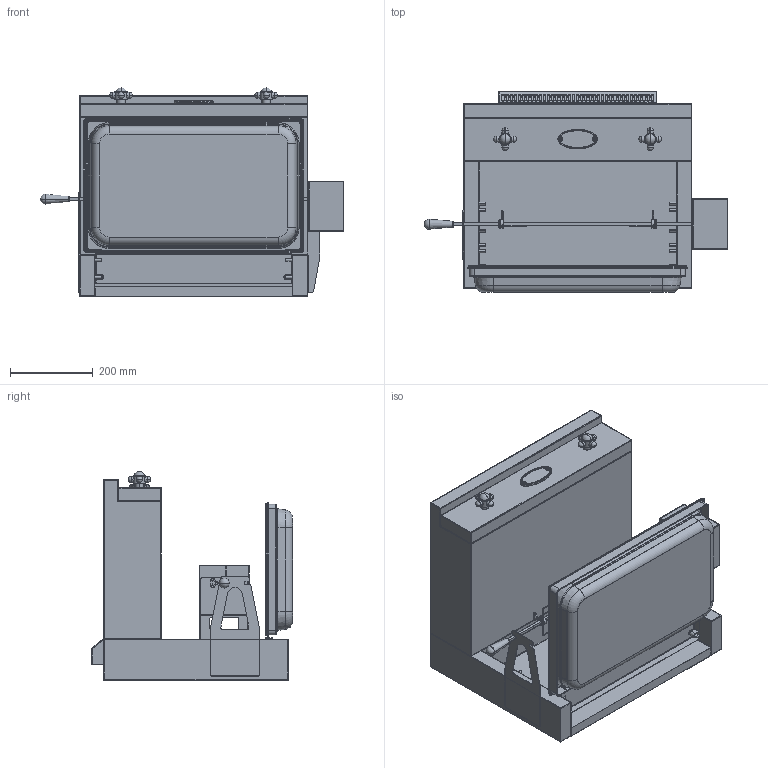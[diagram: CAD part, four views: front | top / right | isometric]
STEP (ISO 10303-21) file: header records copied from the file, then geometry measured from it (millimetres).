
FILE_DESCRIPTION((''),'2;1');
FILE_NAME('BASE_EXPORT_LSE610TB_ASM','2018-11-28T13:49:00',('r.avril'),(''),'CREO PARAMETRIC BY PTC INC, 2017260','CREO PARAMETRIC BY PTC INC, 2017260','');
FILE_SCHEMA(('AP203_CONFIGURATION_CONTROLLED_3D_DESIGN_OF_MECHANICAL_PARTS_AND_ASSEMBLIES_MIM_LF { 1 0 10303 403 2 1 2 }'));
Products named in the file (10): BASE_EXPORT_LSE610TB; 6538399; 1931942; 6518450_; 6531942_ASM; 65049009; 65650001; 65320001; 65290004; BASE_EXPORT_LSE610TB_ASM
Assembly tree (11 placements, depth 3):
  BASE_EXPORT_LSE610TB_ASM
    BASE_EXPORT_LSE610TB
    6531942_ASM  x2
      6538399
      1931942
      6518450_
    65049009
    65650001
    65320001
    65290004  x2
Bounding box: 732 x 484.7 x 504.1 mm (x, y, z)
Volume: 2064612.1 mm3; surface area: 4097707.7 mm2
Topology: 15 solids, 37 shells, 1795 faces, 4224 edges, 2643 vertices
Faces by surface type: plane 896, cylinder 587, torus 112, sphere 66, cone 58, extrusion 58, bspline 18
Entity records: 50257 total; most frequent: CARTESIAN_POINT 10736, DIRECTION 7346, ORIENTED_EDGE 6714, EDGE_CURVE 3357, AXIS2_PLACEMENT_3D 2608, VERTEX_POINT 2112, VECTOR 2101, LINE 2071
